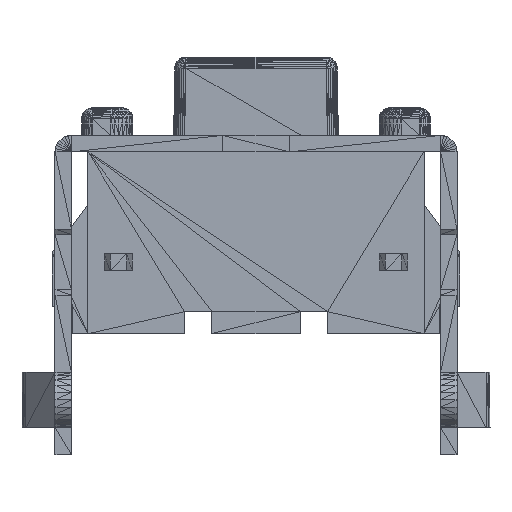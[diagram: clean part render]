
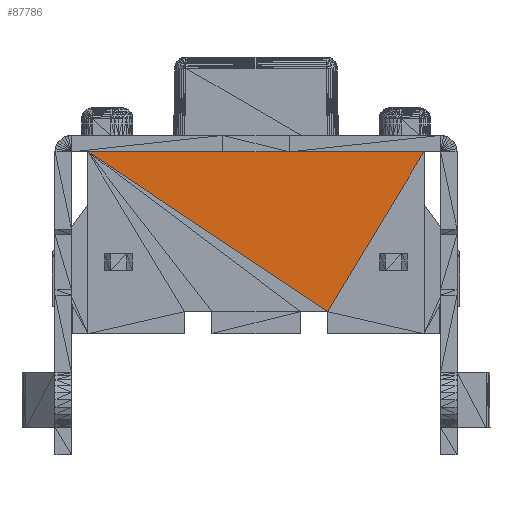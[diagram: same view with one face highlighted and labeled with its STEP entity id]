
A CAD part, front view. The second image highlights one B-rep face of the part: STEP entity #87786.
In plain terms, the highlighted planar face has unit normal (0, -1, 0).
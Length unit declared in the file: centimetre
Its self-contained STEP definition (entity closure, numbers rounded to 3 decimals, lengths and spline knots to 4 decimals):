
#127=DIRECTION('',(0.61,0.,0.));
#131=DIRECTION('',(0.832,0.,-0.555));
#7674=DIRECTION('',(-0.517,0.,-0.856));
#7727=VECTOR('',#127,1.);
#7731=VECTOR('',#131,1.);
#15274=VECTOR('',#7674,1.);
#15330=CARTESIAN_POINT('',(-0.305,-0.175,0.));
#15339=CARTESIAN_POINT('',(0.305,-0.175,0.));
#15391=CARTESIAN_POINT('',(0.13,-0.175,-0.29));
#18992=VERTEX_POINT('',#15330);
#19001=VERTEX_POINT('',#15339);
#19053=VERTEX_POINT('',#15391);
#22715=LINE('',#15330,#7727);
#22753=LINE('',#15330,#7731);
#22754=LINE('',#15339,#15274);
#32159=EDGE_CURVE('',#18992,#19001,#22715,.T.);
#32197=EDGE_CURVE('',#18992,#19053,#22753,.T.);
#32198=EDGE_CURVE('',#19001,#19053,#22754,.T.);
#41641=ORIENTED_EDGE('',*,*,#32197,.T.);
#51047=ORIENTED_EDGE('',*,*,#32159,.F.);
#51086=ORIENTED_EDGE('',*,*,#32198,.F.);
#60481=EDGE_LOOP('',(#41641,#51086,#51047));
#65942=FACE_OUTER_BOUND('',#60481,.T.);
#71457=DIRECTION('',(0.,-1.,0.));
#71458=AXIS2_PLACEMENT_3D('',#15330,#71457,#131);
#82325=PLANE('',#71458);
#87786=ADVANCED_FACE('',(#65942),#82325,.T.);
